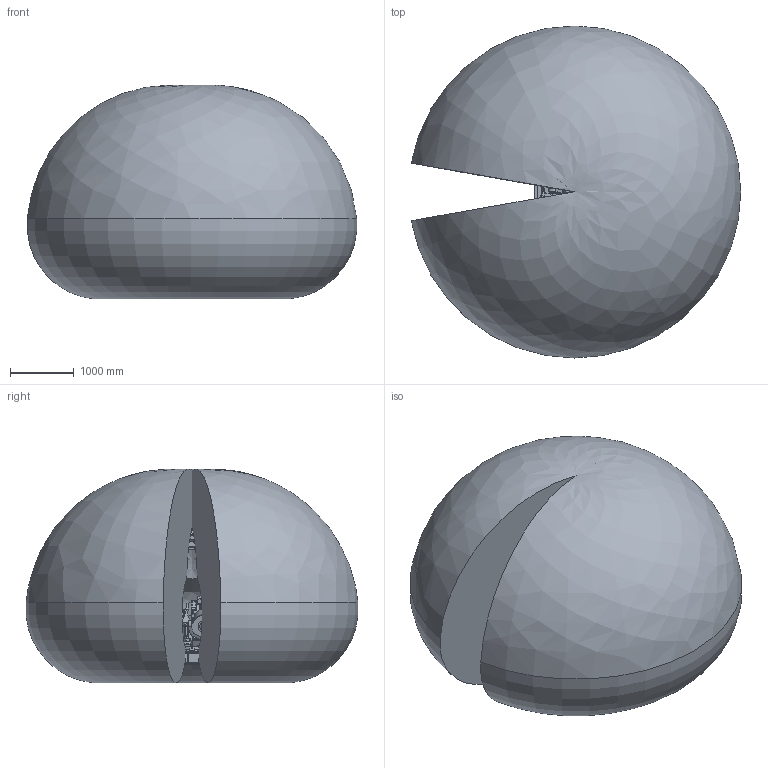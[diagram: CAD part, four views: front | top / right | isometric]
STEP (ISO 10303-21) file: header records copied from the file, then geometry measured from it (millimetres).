
FILE_DESCRIPTION(/* description */ (''),/* implementation_level */ '2;1');
FILE_NAME(/* name */ 'E:\组装完成的图纸\IRB 6700\IRB 6700-200-2.6\IRB 6700-200-2.6(带工作域).stp',/* time_stamp */ '2023-11-04T19:26:06+08:00',/* author */ ('Administrator'),/* organization */ (''),/* preprocessor_version */ 'ST-DEVELOPER v16.5',/* originating_system */ 'Autodesk Inventor 2017',/* authorisation */ '');
FILE_SCHEMA (('AUTOMOTIVE_DESIGN { 1 0 10303 214 3 1 1 }'));
Products named in the file (17): 部件2; IRB6700_200-260_IRC5_rev00_CYLINDER_CAD; IRB6700_200-260_IRC5_rev00_LINK02m_CABLE; IRB6700_200-260_IRC5_rev00_LOGO1_CAD; IRB6700_200-260_IRC5_rev00_LOGO2_CAD; IRB6700_200-260_IRC5_rev00_LOGO3_CAD; IRB6700_200-260_IRC5_rev00_ROD_CAD; IRB6700_200-260_IRC5_rev01_LINK01m_CABLE; IRB6700_200-260_IRC5_rev01_LINK02_CAD; IRB6700_200-260_IRC5_rev01_LINK03m_CABLE; IRB6700_200-260_IRC5_rev01_LINK04_CAD; IRB6700_200-260_IRC5_rev01_LINK06_CAD; IRB6700_200-260_IRC5_rev02_BASE_CAD; IRB6700_200-260_IRC5_rev02_LINK03_CAD; IRB6700_200-260_IRC5_rev02_LINK05_CAD; IRB6700_200-260_IRC5_rev03_LINK01_CAD; IRB6700_200-260_Working-space
Assembly tree (16 placements, depth 2):
  部件2
    IRB6700_200-260_IRC5_rev00_CYLINDER_CAD
    IRB6700_200-260_IRC5_rev00_LINK02m_CABLE
    IRB6700_200-260_IRC5_rev00_LOGO1_CAD
    IRB6700_200-260_IRC5_rev00_LOGO2_CAD
    IRB6700_200-260_IRC5_rev00_LOGO3_CAD
    IRB6700_200-260_IRC5_rev00_ROD_CAD
    IRB6700_200-260_IRC5_rev01_LINK01m_CABLE
    IRB6700_200-260_IRC5_rev01_LINK02_CAD
    IRB6700_200-260_IRC5_rev01_LINK03m_CABLE
    IRB6700_200-260_IRC5_rev01_LINK04_CAD
    IRB6700_200-260_IRC5_rev01_LINK06_CAD
    IRB6700_200-260_IRC5_rev02_BASE_CAD
    IRB6700_200-260_IRC5_rev02_LINK03_CAD
    IRB6700_200-260_IRC5_rev02_LINK05_CAD
    IRB6700_200-260_IRC5_rev03_LINK01_CAD
    IRB6700_200-260_Working-space
Bounding box: 5153.87 x 5193.32 x 3342.8 mm (x, y, z)
Volume: 46426373985.8 mm3; surface area: 99219555 mm2
Topology: 17 solids, 23 shells, 5312 faces, 14053 edges, 9131 vertices
Faces by surface type: plane 3351, cylinder 1082, cone 470, bspline 382, torus 22, sphere 5
Full cylindrical faces by diameter (mm): 3.3 x1, 5 x17, 6 x14, 6.5 x4, 6.6 x9, 6.8 x12, 7 x16, 7.1 x2, 7.5 x8, 8 x4, 8.3 x4, 8.5 x6, 8.6 x4, 8.8 x4, 9 x5, 9.5 x14, 10 x4, 10.2 x39, 10.8 x1, 11.05 x4, 12 x1, 12.5 x2, 13 x5, 14 x1, 15.5 x1, 16 x4, 16.3 x1, 17 x4, 17.5 x8, 17.583 x1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
Entity records: 234334 total; most frequent: CARTESIAN_POINT 105924, ORIENTED_EDGE 26712, DIRECTION 25076, EDGE_CURVE 13356, VERTEX_POINT 8976, AXIS2_PLACEMENT_3D 8472, LINE 8132, VECTOR 8132
